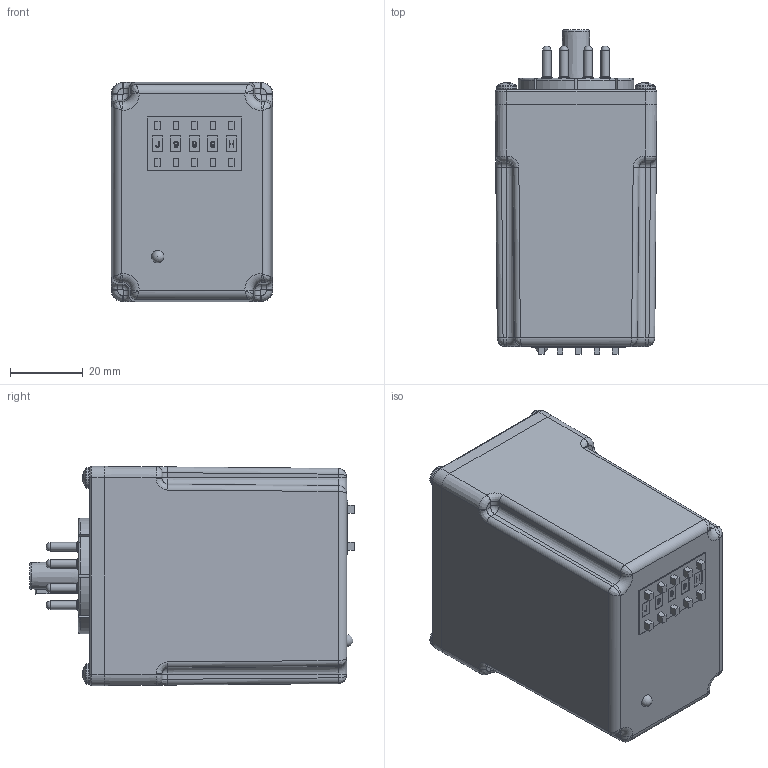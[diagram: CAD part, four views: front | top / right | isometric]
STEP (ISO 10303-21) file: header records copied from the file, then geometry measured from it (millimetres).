
FILE_DESCRIPTION(('FreeCAD Model'),'2;1');
FILE_NAME('Open CASCADE Shape Model','2023-06-06T13:23:42',(''),(''), 'Open CASCADE STEP processor 7.6','FreeCAD','Unknown');
FILE_SCHEMA(('AUTOMOTIVE_DESIGN { 1 0 10303 214 1 1 1 1 }'));
Products named in the file (1): Compound
Bounding box: 44.45 x 89.41 x 60.33 mm (x, y, z)
Surface area: 44343 mm2 (no closed solid volume)
Topology: 0 solids, 25 shells, 1995 faces, 5110 edges, 3185 vertices
Faces by surface type: plane 795, cylinder 682, bspline 243, torus 121, sphere 57, cone 57, revolution 40
Full cylindrical faces by diameter (mm): 0.254 x16, 1.257 x8, 1.714 x8, 1.905 x16, 2.362 x16, 2.464 x8, 3.175 x4, 4.191 x8, 7.925 x1
Entity records: 187344 total; most frequent: CARTESIAN_POINT 91219, DIRECTION 16282, ORIENTED_EDGE 10074, PCURVE 10074, DEFINITIONAL_REPRESENTATION 10074, LINE 9923, VECTOR 9923, EDGE_CURVE 5045
